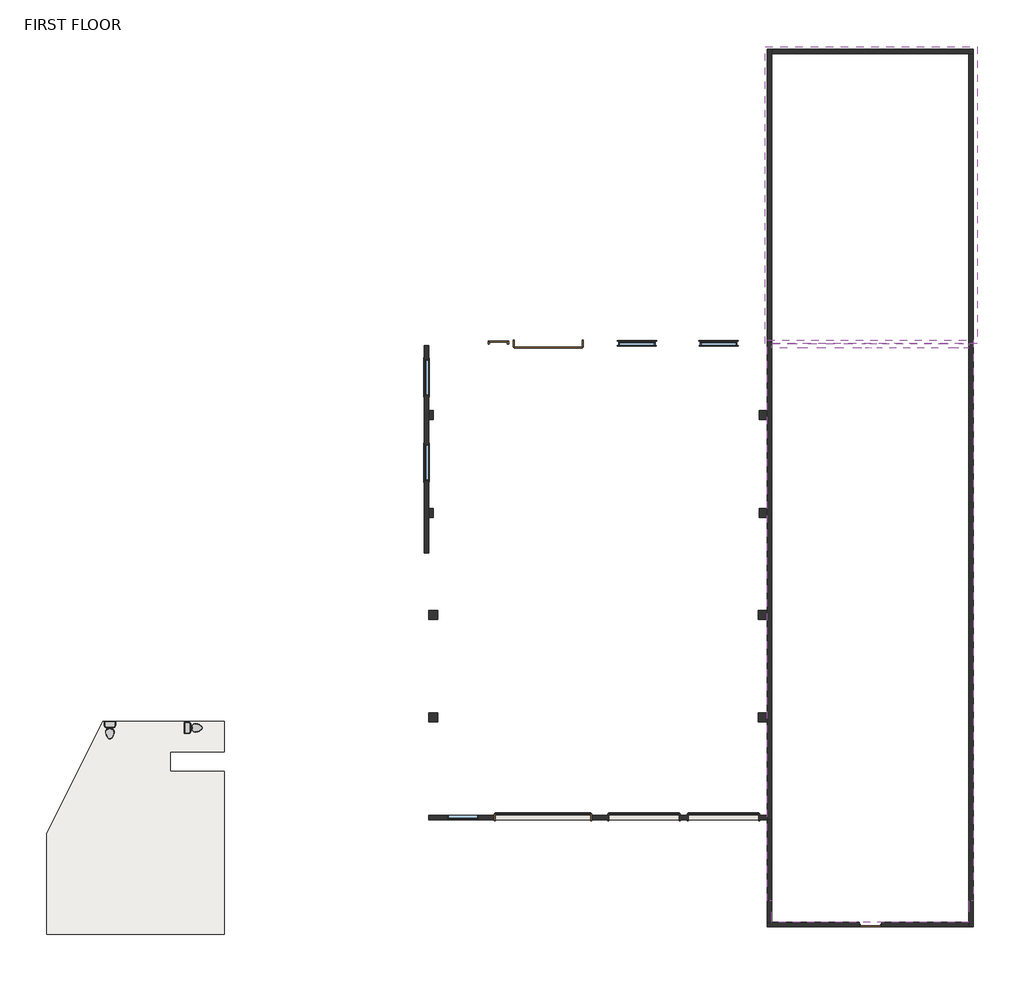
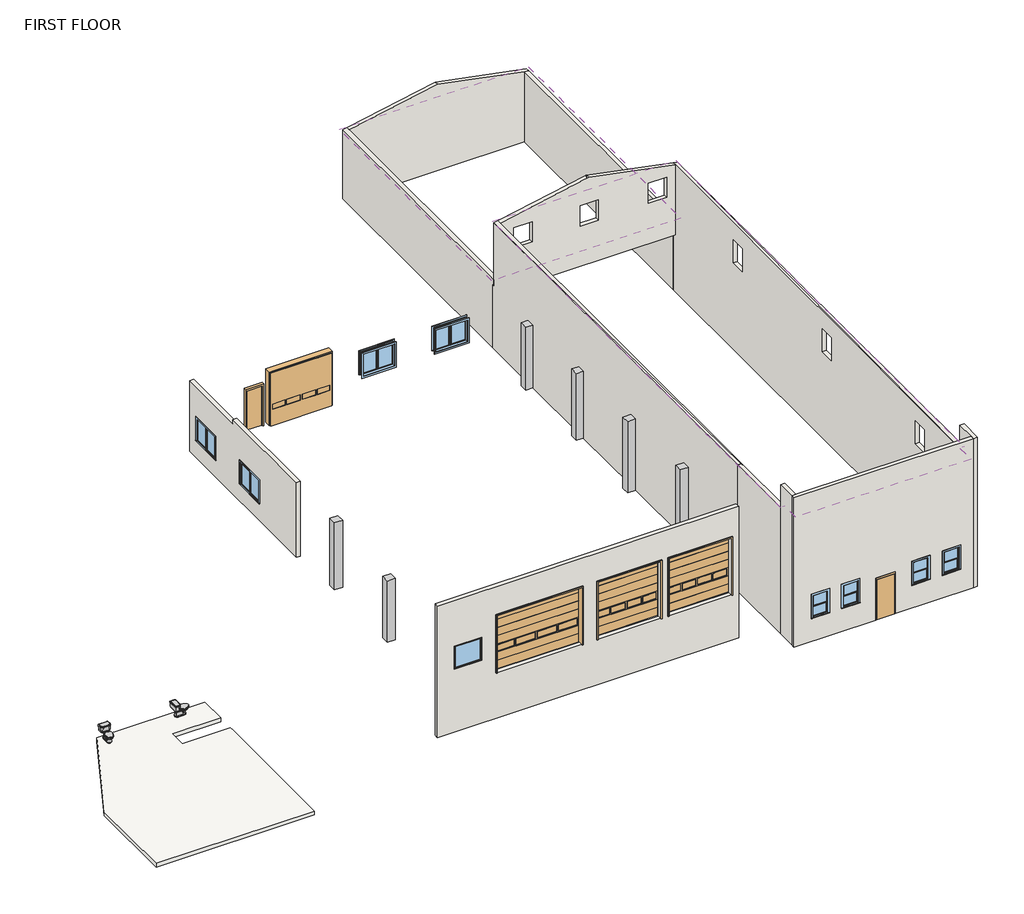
# One storey: 12 walls, 9 windows, 8 columns, 6 doors, 2 flow terminals, 2 roofs, 1 slab.
"""IFC4 building model written with IfcOpenShell, lengths in millimetres."""

from ifc_helpers import new_model, si_unit, frame, origin, place, context, project, spatial, polyline, outline, extrude, faceted_brep, transform, mapped, element, save
from components import door_684b8264, door_14x10_2fe4b0a0, door_2_8_x_7_0_b9f3dcf3, door_3_0_x_7_0_07df3c89, door_0ad13b3f, toilet_domestic_3d_toilet_domestic_3d_f7549cf7, toilet_domestic_3d_toilet_domestic_3d_183bbd19, window_e9b29f34, window_3d187e63, window_6106e9d8

model = new_model("IFC4")

# Units and contexts
model_context = context("Model", 3, world=origin())
ifc_project = project(units=[si_unit("LENGTHUNIT", "METRE", prefix="MILLI")], contexts=[model_context])

# Site, building, storey
site = spatial("IfcSite", under=ifc_project)
building = spatial("IfcBuilding", under=site)
storey = spatial("IfcBuildingStorey", under=building, Name="FIRST FLOOR", Elevation=3657.6)

# Columns
placement = place(None, origin())
element("IfcColumn", 1, ObjectType="Rectangular Column : 16\" x 16\"", at=placement, inside=storey, context=model_context, shape_type="SweptSolid", body=[
    extrude(outline(polyline([(26819.9108625, 17904.5402655), (27226.3108625, 17904.5402655), (27226.3108625, 17498.1402655), (26819.9108625, 17498.1402655), (26819.9108625, 17904.5402655)])), frame((0.0, 0.0, 3657.6), z_axis=(0.0, 0.0, 1.0), x_axis=(1.0, 0.0, 0.0)), (0.0, 0.0, 1.0), 3251.2),
])
element("IfcColumn", 2, ObjectType="Rectangular Column : 16\" x 16\"", at=placement, inside=storey, context=model_context, shape_type="SweptSolid", body=[
    extrude(outline(polyline([(26819.9108625, 22501.9402655), (27226.3108625, 22501.9402655), (27226.3108625, 22095.5402655), (26819.9108625, 22095.5402655), (26819.9108625, 22501.9402655)])), frame((0.0, 0.0, 3657.6), z_axis=(0.0, 0.0, 1.0), x_axis=(1.0, 0.0, 0.0)), (0.0, 0.0, 1.0), 3556.0),
])
element("IfcColumn", 3, ObjectType="Rectangular Column : 16\" x 16\"", at=placement, inside=storey, context=model_context, shape_type="SweptSolid", body=[
    extrude(outline(polyline([(41958.3108625, 17904.5402655), (41958.3108625, 17498.1402655), (41551.9108625, 17498.1402655), (41551.9108625, 17904.5402655), (41958.3108625, 17904.5402655)])), frame((0.0, 0.0, 3657.6), z_axis=(0.0, 0.0, 1.0), x_axis=(1.0, 0.0, 0.0)), (0.0, 0.0, 1.0), 3995.2633615),
])
element("IfcColumn", 4, ObjectType="Rectangular Column : 16\" x 16\"", at=placement, inside=storey, context=model_context, shape_type="SweptSolid", body=[
    extrude(outline(polyline([(41958.3108625, 22501.9402655), (41958.3108625, 22095.5402655), (41551.9108625, 22095.5402655), (41551.9108625, 22501.9402655), (41958.3108625, 22501.9402655)])), frame((0.0, 0.0, 3657.6), z_axis=(0.0, 0.0, 1.0), x_axis=(1.0, 0.0, 0.0)), (0.0, 0.0, 1.0), 3772.8981862),
])
element("IfcColumn", 5, ObjectType="Rectangular Column : 16\" x 16\"", at=placement, inside=storey, context=model_context, shape_type="SweptSolid", body=[
    extrude(outline(polyline([(41602.7108625, 26642.1402655), (41602.7108625, 27048.5402655), (41958.3108625, 27048.5402655), (41958.3108625, 26642.1402655), (41602.7108625, 26642.1402655)])), frame((0.0, 0.0, 3657.6), z_axis=(0.0, 0.0, 1.0), x_axis=(1.0, 0.0, 0.0)), (0.0, 0.0, 1.0), 3552.9900846),
])
element("IfcColumn", 6, ObjectType="Rectangular Column : 16\" x 16\"", at=placement, inside=storey, context=model_context, shape_type="SweptSolid", body=[
    extrude(outline(polyline([(41602.7108625, 31036.3402655), (41602.7108625, 31442.7402655), (41958.3108625, 31442.7402655), (41958.3108625, 31036.3402655), (41602.7108625, 31036.3402655)])), frame((0.0, 0.0, 3657.6), z_axis=(0.0, 0.0, 1.0), x_axis=(1.0, 0.0, 0.0)), (0.0, 0.0, 1.0), 3340.4532044),
])
element("IfcColumn", 7, ObjectType="Rectangular Column : 8\" x 16\"", at=placement, inside=storey, context=model_context, shape_type="SweptSolid", body=[
    extrude(outline(polyline([(26819.9108625, 27048.5402655), (27023.1108625, 27048.5402655), (27023.1108625, 26642.1402655), (26819.9108625, 26642.1402655), (26819.9108625, 27048.5402655)])), frame((0.0, 0.0, 3657.6), z_axis=(0.0, 0.0, 1.0), x_axis=(1.0, 0.0, 0.0)), (0.0, 0.0, 1.0), 3556.0),
])
element("IfcColumn", 8, ObjectType="Rectangular Column : 8\" x 16\"", at=placement, inside=storey, context=model_context, shape_type="SweptSolid", body=[
    extrude(outline(polyline([(26819.9108625, 31442.7402655), (27023.1108625, 31442.7402655), (27023.1108625, 31036.3402655), (26819.9108625, 31036.3402655), (26819.9108625, 31442.7402655)])), frame((0.0, 0.0, 3657.6), z_axis=(0.0, 0.0, 1.0), x_axis=(1.0, 0.0, 0.0)), (0.0, 0.0, 1.0), 3340.4532044),
])

# Doors
door_shape = door_684b8264(model_context)
element("IfcDoor", 9, ObjectType="OH-doorwithglass_BA : 10'-4\" x 10'", at=placement, inside=storey, context=model_context, shape_type="MappedRepresentation", body=[
    mapped(door_shape, transform((36359.4357409, 13078.5402655, 3657.6), x_axis=(-1.0, 0.0, 0.0), y_axis=(0.0, -1.0, 0.0), z_axis=(0.0, 0.0, 1.0))),
])
element("IfcDoor", 10, ObjectType="OH-doorwithglass_BA : 10'-4\" x 10'", at=placement, inside=storey, context=model_context, shape_type="MappedRepresentation", body=[
    mapped(door_shape, transform((39915.4357409, 13078.5402655, 3657.6), x_axis=(-1.0, 0.0, 0.0), y_axis=(0.0, -1.0, 0.0), z_axis=(0.0, 0.0, 1.0))),
])
door_14x10_shape = door_14x10_2fe4b0a0(model_context)
element("IfcDoor", 11, ObjectType="OH-doorwithglass_BA : 14x10", at=placement, inside=storey, context=model_context, shape_type="MappedRepresentation", body=[
    mapped(door_14x10_shape, transform((32012.3859842, 13078.5402655, 3657.6), x_axis=(1.0, 0.0, 0.0), y_axis=(0.0, 1.0, 0.0), z_axis=(0.0, 0.0, 1.0))),
])
door_2_8_x_7_0_shape = door_2_8_x_7_0_b9f3dcf3(model_context)
element("IfcDoor", 12, ObjectType="Butt Frame_S_BA : 2-8 x 7-0", at=placement, inside=storey, context=model_context, shape_type="MappedRepresentation", body=[
    mapped(door_2_8_x_7_0_shape, transform((30410.8358625, 34439.9402655, 3657.6), x_axis=(-1.0, 0.0, 0.0), y_axis=(0.0, -1.0, 0.0), z_axis=(0.0, 0.0, 1.0))),
])
door_3_0_x_7_0_shape = door_3_0_x_7_0_07df3c89(model_context)
element("IfcDoor", 13, ObjectType="Butt Frame_S_BA : 3-0 x 7-0", at=placement, inside=storey, context=model_context, shape_type="MappedRepresentation", body=[
    mapped(door_3_0_x_7_0_shape, transform((47051.0108625, 8430.3402655, 3657.6), x_axis=(-1.0, 0.0, 0.0), y_axis=(0.0, -1.0, 0.0), z_axis=(0.0, 0.0, 1.0))),
])
door_2_shape = door_0ad13b3f(model_context)
element("IfcDoor", 14, ObjectType="OH-doorwithglass_BA : 9' 2\" X 10", at=placement, inside=storey, context=model_context, shape_type="MappedRepresentation", body=[
    mapped(door_2_shape, transform((32250.5109842, 34592.3402655, 3657.6), x_axis=(1.0, 0.0, 0.0), y_axis=(0.0, 1.0, 0.0), z_axis=(0.0, 0.0, 1.0))),
])

# Flow terminals
toilet_domestic_3d_toilet_domestic_3d_shape = toilet_domestic_3d_toilet_domestic_3d_f7549cf7(model_context)
toilet_domestic_3d_toilet_domestic_3d_2_shape = toilet_domestic_3d_toilet_domestic_3d_183bbd19(model_context)
element("IfcFlowTerminal", 15, ObjectType="Toilet-Domestic-3D : Toilet-Domestic-3D", at=placement, inside=storey, context=model_context, shape_type="MappedRepresentation", body=[
    mapped(toilet_domestic_3d_toilet_domestic_3d_shape, transform((12559.9769936, 17044.9521641, 3657.6), x_axis=(1.0, 0.0, 0.0), y_axis=(0.0, 1.0, 0.0), z_axis=(0.0, 0.0, 1.0))),
    mapped(toilet_domestic_3d_toilet_domestic_3d_2_shape, transform((12559.9769936, 17044.9521641, 3657.6), x_axis=(1.0, 0.0, 0.0), y_axis=(0.0, 1.0, 0.0), z_axis=(0.0, 0.0, 1.0))),
])
element("IfcFlowTerminal", 16, ObjectType="Toilet-Domestic-3D : Toilet-Domestic-3D", at=placement, inside=storey, context=model_context, shape_type="MappedRepresentation", body=[
    mapped(toilet_domestic_3d_toilet_domestic_3d_shape, transform((16382.0730209, 17238.992362, 3657.6), x_axis=(0.0, 1.0, 0.0), y_axis=(-1.0, 0.0, 0.0), z_axis=(0.0, 0.0, 1.0))),
    mapped(toilet_domestic_3d_toilet_domestic_3d_2_shape, transform((16382.0730209, 17238.992362, 3657.6), x_axis=(0.0, 1.0, 0.0), y_axis=(-1.0, 0.0, 0.0), z_axis=(0.0, 0.0, 1.0))),
])

# Roofs
element("IfcRoof", 17, ObjectType="6\" Rigid", at=placement, inside=storey, context=model_context, shape_type="SweptSolid", body=[
    extrude(outline(polyline([(7467.6, 41856.7108625), (7315.2, 41856.7108625), (8229.6, 46606.5108625), (7315.2, 51356.3108625), (7467.6, 51356.3108625), (8382.0, 46606.5108625), (7467.6, 41856.7108625)])), frame((0.0, 34439.9402655, 0.0), z_axis=(0.0, 1.0, 0.0), x_axis=(0.0, 0.0, 1.0)), (0.0, 0.0, 1.0), 13284.2),
])
element("IfcRoof", 18, ObjectType="6\" Rigid", at=placement, inside=storey, context=model_context, shape_type="Brep", body=[
    faceted_brep([(51178.5108625, 34592.3402655, 10515.6), (51178.5108625, 34592.3402655, 10363.2), (46568.4108625, 34592.3402655, 11277.6), (41958.3108625, 34592.3402655, 10363.2), (41958.3108625, 34592.3402655, 10515.6), (46568.4108625, 34592.3402655, 11430.0), (51178.5108625, 9497.1402655, 10515.6), (51178.5108625, 9497.1402655, 10363.2), (42161.5108625, 8531.9402655, 10515.6), (42161.5108625, 8531.9402655, 10363.2), (46568.4108625, 8531.9402655, 11277.6), (50975.3108625, 8531.9402655, 10363.2), (50975.3108625, 8531.9402655, 10515.6), (46568.4108625, 8531.9402655, 11430.0), (41958.3108625, 9497.1402655, 10363.2), (41958.3108625, 9497.1402655, 10515.6), (42161.5108625, 9497.1402655, 10363.2), (42161.5108625, 9497.1402655, 10515.6), (50975.3108625, 9497.1402655, 10515.6), (50975.3108625, 9497.1402655, 10363.2)], [[[0, 1, 2, 3, 4, 5]], [[6, 7, 1, 0]], [[8, 9, 10, 11, 12, 13]], [[4, 3, 14, 15]], [[15, 14, 16, 17]], [[17, 16, 9, 8]], [[18, 19, 7, 6]], [[12, 11, 19, 18]], [[4, 15, 17]], [[3, 16, 14]], [[12, 18, 5, 13]], [[11, 10, 2, 19]], [[17, 8, 13, 5]], [[4, 17, 5]], [[18, 0, 5]], [[18, 6, 0]], [[16, 2, 10, 9]], [[3, 2, 16]], [[19, 2, 1]], [[19, 1, 7]]]),
])

# Slab
element("IfcSlab", 19, ObjectType="8\" WOOD FLOOR", at=placement, inside=storey, context=model_context, shape_type="SweptSolid", body=[
    extrude(outline(polyline([(12249.2288286, 17539.6481915), (17675.9108625, 17539.6481915), (17675.9108625, 16168.0481915), (15252.3769936, 16168.0481915), (15252.3769936, 15304.4481915), (17675.9108625, 15304.4481915), (17675.9108625, 15101.2481915), (17675.9108625, 7998.5402655), (9725.7108625, 7998.5402655), (9725.7108625, 12498.4063211), (12249.2288286, 17539.6481915)])), frame((0.0, 0.0, 3454.4), z_axis=(0.0, 0.0, 1.0), x_axis=(1.0, 0.0, 0.0)), (0.0, 0.0, 1.0), 203.2),
])

# Walls
element("IfcWall", 20, ObjectType="Generic - 8\"", at=placement, inside=storey, context=model_context, shape_type="Brep", body=[
    faceted_brep([(26819.9108625, 13129.3402655, 1244.6), (41958.3108625, 13129.3402655, 1244.6), (41958.3108625, 13129.3402655, 3657.6), (41958.3108625, 13129.3402655, 8229.6), (26819.9108625, 13129.3402655, 8229.6), (26819.9108625, 13129.3402655, 3454.4), (29791.7108625, 13129.3402655, 3657.6), (29791.7108625, 13129.3402655, 6705.6), (34058.9108625, 13129.3402655, 6705.6), (34058.9108625, 13129.3402655, 3657.6), (38021.3108625, 13129.3402655, 6705.6), (38021.3108625, 13129.3402655, 3657.6), (34871.7108625, 13129.3402655, 3657.6), (34871.7108625, 13129.3402655, 6705.6), (41577.3108625, 13129.3402655, 6705.6), (41577.3108625, 13129.3402655, 3657.6), (38427.7108625, 13129.3402655, 3657.6), (38427.7108625, 13129.3402655, 6705.6), (27664.4608625, 13129.3402655, 4572.0), (27664.4608625, 13129.3402655, 5791.2), (29036.0608625, 13129.3402655, 5791.2), (29036.0608625, 13129.3402655, 4572.0), (41958.3108625, 13332.5402655, 1244.6), (26819.9108625, 13332.5402655, 1244.6), (26819.9108625, 13332.5402655, 8229.6), (41958.3108625, 13332.5402655, 8229.6), (29791.7108625, 13332.5402655, 6705.6), (29791.7108625, 13332.5402655, 3657.6), (34058.9108625, 13332.5402655, 3657.6), (34058.9108625, 13332.5402655, 6705.6), (38021.3108625, 13332.5402655, 3657.6), (38021.3108625, 13332.5402655, 6705.6), (34871.7108625, 13332.5402655, 6705.6), (34871.7108625, 13332.5402655, 3657.6), (41577.3108625, 13332.5402655, 3657.6), (41577.3108625, 13332.5402655, 6705.6), (38427.7108625, 13332.5402655, 6705.6), (38427.7108625, 13332.5402655, 3657.6), (27664.4608625, 13332.5402655, 5791.2), (27664.4608625, 13332.5402655, 4572.0), (29036.0608625, 13332.5402655, 4572.0), (29036.0608625, 13332.5402655, 5791.2), (41958.3108625, 13230.9402655, 8229.6)], [[[0, 1, 2, 3, 4, 5], [6, 7, 8, 9], [10, 11, 12, 13], [14, 15, 16, 17], [18, 19, 20, 21]], [[22, 23, 24, 25], [26, 27, 28, 29], [30, 31, 32, 33], [34, 35, 36, 37], [38, 39, 40, 41]], [[1, 0, 23, 22]], [[4, 3, 42, 25, 24]], [[26, 7, 6, 27]], [[27, 6, 9, 28]], [[28, 9, 8, 29]], [[30, 11, 10, 31]], [[11, 30, 33, 12]], [[12, 33, 32, 13]], [[31, 10, 13, 32]], [[34, 15, 14, 35]], [[15, 34, 37, 16]], [[16, 37, 36, 17]], [[35, 14, 17, 36]], [[7, 26, 29, 8]], [[3, 2, 1, 22, 25, 42]], [[38, 19, 18, 39]], [[39, 18, 21, 40]], [[40, 21, 20, 41]], [[19, 38, 41, 20]], [[23, 0, 5, 4, 24]]]),
])
element("IfcWall", 21, ObjectType="Generic - 8\"", at=placement, inside=storey, context=model_context, shape_type="Brep", body=[
    faceted_brep([(42161.5108625, 13129.3402655, 3657.6), (42161.5108625, 34541.5402655, 3657.6), (42161.5108625, 34541.5402655, 7010.4), (42161.5108625, 34439.9402655, 7010.4), (42161.5108625, 34439.9402655, 10403.2593703), (42161.5108625, 34236.7402655, 10402.933021), (42161.5108625, 13129.3402655, 10369.0334928), (42161.5108625, 13129.3402655, 10363.2), (42161.5108625, 13230.9402655, 10363.2), (42161.5108625, 13230.9402655, 8229.6), (42161.5108625, 13129.3402655, 8229.6), (41958.3108625, 34541.5402655, 3657.6), (41958.3108625, 31442.7402655, 3657.6), (41958.3108625, 31036.3402655, 3657.6), (41958.3108625, 27048.5402655, 3657.6), (41958.3108625, 26642.1402655, 3657.6), (41958.3108625, 22501.9402655, 3657.6), (41958.3108625, 22095.5402655, 3657.6), (41958.3108625, 17904.5402655, 3657.6), (41958.3108625, 17498.1402655, 3657.6), (41958.3108625, 13129.3402655, 3657.6), (41958.3108625, 13129.3402655, 8229.6), (41958.3108625, 13230.9402655, 8229.6), (41958.3108625, 13230.9402655, 10363.2), (41958.3108625, 34439.9402655, 10363.2), (41958.3108625, 34439.9402655, 7010.4), (41958.3108625, 34541.5402655, 7010.4), (42132.1003362, 13129.3402655, 10363.2), (41959.5448706, 34439.9402655, 10363.2), (42131.2776641, 13230.9402655, 10363.2)], [[[0, 1, 2, 3, 4, 5, 6, 7, 8, 9, 10]], [[11, 12, 13, 14, 15, 16, 17, 18, 19, 20, 21, 22, 23, 24, 25, 26]], [[1, 0, 20, 19, 18, 17, 16, 15, 14, 13, 12, 11]], [[20, 0, 10, 21]], [[6, 27, 7]], [[25, 24, 28, 4, 3]], [[1, 11, 26, 2]], [[29, 8, 7, 27]], [[22, 9, 8, 29, 23]], [[6, 5, 4, 28, 29, 27]], [[28, 24, 23, 29]], [[25, 3, 2, 26]], [[9, 22, 21, 10]]]),
])
element("IfcWall", 22, ObjectType="Generic - 8\"", at=placement, inside=storey, context=model_context, shape_type="Brep", body=[
    faceted_brep([(26616.7108625, 34338.3402655, 3657.6), (26616.7108625, 25054.6402655, 3657.6), (26616.7108625, 25054.6402655, 7416.8), (26616.7108625, 25054.6402655, 7620.0), (26616.7108625, 30579.1402655, 7620.0), (26616.7108625, 30579.1402655, 7416.8), (26616.7108625, 34338.3402655, 7416.8), (26616.7108625, 34338.3402655, 7010.4), (26616.7108625, 33728.7402655, 4572.0), (26616.7108625, 33728.7402655, 5791.2), (26616.7108625, 32103.1402655, 5791.2), (26616.7108625, 32103.1402655, 4572.0), (26616.7108625, 29918.7402655, 4572.0), (26616.7108625, 29918.7402655, 5791.2), (26616.7108625, 28293.1402655, 5791.2), (26616.7108625, 28293.1402655, 4572.0), (26819.9108625, 25054.6402655, 3657.6), (26819.9108625, 26642.1402655, 3657.6), (26819.9108625, 27048.5402655, 3657.6), (26819.9108625, 31036.3402655, 3657.6), (26819.9108625, 31442.7402655, 3657.6), (26819.9108625, 34338.3402655, 3657.6), (26819.9108625, 34338.3402655, 7416.8), (26819.9108625, 30579.1402655, 7416.8), (26819.9108625, 30579.1402655, 7620.0), (26819.9108625, 25054.6402655, 7620.0), (26819.9108625, 25054.6402655, 7416.8), (26819.9108625, 33728.7402655, 5791.2), (26819.9108625, 33728.7402655, 4572.0), (26819.9108625, 32103.1402655, 4572.0), (26819.9108625, 32103.1402655, 5791.2), (26819.9108625, 29918.7402655, 5791.2), (26819.9108625, 29918.7402655, 4572.0), (26819.9108625, 28293.1402655, 4572.0), (26819.9108625, 28293.1402655, 5791.2)], [[[0, 1, 2, 3, 4, 5, 6, 7], [8, 9, 10, 11], [12, 13, 14, 15]], [[16, 17, 18, 19, 20, 21, 22, 23, 24, 25, 26], [27, 28, 29, 30], [31, 32, 33, 34]], [[27, 9, 8, 28]], [[28, 8, 11, 29]], [[29, 11, 10, 30]], [[9, 27, 30, 10]], [[31, 13, 12, 32]], [[32, 12, 15, 33]], [[33, 15, 14, 34]], [[13, 31, 34, 14]], [[1, 0, 21, 20, 19, 18, 17, 16]], [[4, 3, 25, 24]], [[5, 4, 24, 23]], [[6, 5, 23, 22]], [[2, 1, 16, 26, 25, 3]], [[0, 7, 6, 22, 21]]]),
])
element("IfcWall", 23, ObjectType="Generic - 8\"", at=placement, inside=storey, context=model_context, shape_type="Brep", body=[
    faceted_brep([(42161.5108625, 34541.5402655, 7010.4), (42161.5108625, 34541.5402655, 3657.6), (42161.5108625, 47393.9402655, 3657.6), (42161.5108625, 47597.1402655, 3657.6), (42161.5108625, 47597.1402655, 7373.8780749), (42161.5108625, 47393.9402655, 7373.8780749), (42161.5108625, 34439.9402655, 7373.8780749), (42161.5108625, 34439.9402655, 7010.4), (41958.3108625, 34541.5402655, 3657.6), (41958.3108625, 34541.5402655, 7010.4), (41958.3108625, 34439.9402655, 7010.4), (41958.3108625, 34439.9402655, 7334.7593583), (41958.3108625, 47597.1402655, 7334.7593583), (41958.3108625, 47597.1402655, 3657.6)], [[[0, 1, 2, 3, 4, 5, 6, 7]], [[8, 9, 10, 11, 12, 13]], [[3, 2, 1, 8, 13]], [[4, 3, 13, 12]], [[0, 9, 8, 1]], [[7, 6, 11, 10]], [[6, 5, 4, 12, 11]], [[7, 10, 9, 0]]]),
])
element("IfcWall", 24, ObjectType="Generic - 8\"", at=placement, inside=storey, context=model_context, shape_type="Brep", body=[
    faceted_brep([(42161.5108625, 47393.9402655, 3657.6), (50975.3108625, 47393.9402655, 3657.6), (51178.5108625, 47393.9402655, 3657.6), (51178.5108625, 47393.9402655, 7349.428877), (50975.3108625, 47393.9402655, 7388.5475936), (46606.5108625, 47393.9402655, 8229.6), (42161.5108625, 47393.9402655, 7373.8780749), (42161.5108625, 47597.1402655, 3657.6), (42161.5108625, 47597.1402655, 7373.8780749), (46606.5108625, 47597.1402655, 8229.6), (51178.5108625, 47597.1402655, 7349.428877), (51178.5108625, 47597.1402655, 3657.6)], [[[0, 1, 2, 3, 4, 5, 6]], [[7, 8, 9, 10, 11]], [[2, 1, 0, 7, 11]], [[0, 6, 8, 7]], [[3, 2, 11, 10]], [[6, 5, 9, 8]], [[5, 4, 3, 10, 9]]]),
])
element("IfcWall", 25, ObjectType="Generic - 8\"", at=placement, inside=storey, context=model_context, shape_type="SweptSolid", body=[
    extrude(outline(polyline([(3657.6, 50975.3108625), (3657.6, 51178.5108625), (7349.428877, 51178.5108625), (7388.5475936, 50975.3108625), (3657.6, 50975.3108625)])), frame((0.0, 34439.9402655, 0.0), z_axis=(0.0, 1.0, 0.0), x_axis=(0.0, 0.0, 1.0)), (0.0, 0.0, 1.0), 12954.0),
])
element("IfcWall", 26, ObjectType="Generic - 8\"", at=placement, inside=storey, context=model_context, shape_type="Brep", body=[
    faceted_brep([(41958.3108625, 8531.9402655, 11582.4), (42161.5108625, 8531.9402655, 11582.4), (50975.3108625, 8531.9402655, 11582.4), (50975.3108625, 8531.9402655, 3657.6), (47076.4108625, 8531.9402655, 3657.6), (47076.4108625, 8531.9402655, 5892.8), (46060.4108625, 8531.9402655, 5892.8), (46060.4108625, 8531.9402655, 3657.6), (42161.5108625, 8531.9402655, 3657.6), (41958.3108625, 8531.9402655, 3657.6), (44406.8807844, 8531.9402655, 6096.0), (44406.8807844, 8531.9402655, 4876.8), (45199.3409406, 8531.9402655, 4876.8), (45199.3409406, 8531.9402655, 6096.0), (47937.4807844, 8531.9402655, 6096.0), (47937.4807844, 8531.9402655, 4876.8), (48729.9409406, 8531.9402655, 4876.8), (48729.9409406, 8531.9402655, 6096.0), (49461.4807844, 8531.9402655, 6096.0), (49461.4807844, 8531.9402655, 4876.8), (50253.9409406, 8531.9402655, 4876.8), (50253.9409406, 8531.9402655, 6096.0), (42882.8807844, 8531.9402655, 6096.0), (42882.8807844, 8531.9402655, 4876.8), (43675.3409406, 8531.9402655, 4876.8), (43675.3409406, 8531.9402655, 6096.0), (50975.3108625, 8328.7402655, 11582.4), (41958.3108625, 8328.7402655, 11582.4), (41958.3108625, 8328.7402655, 3657.6), (46060.4108625, 8328.7402655, 3657.6), (46060.4108625, 8328.7402655, 5892.8), (47076.4108625, 8328.7402655, 5892.8), (47076.4108625, 8328.7402655, 3657.6), (50975.3108625, 8328.7402655, 3657.6), (44406.8807844, 8328.7402655, 6096.0), (45199.3409406, 8328.7402655, 6096.0), (45199.3409406, 8328.7402655, 4876.8), (44406.8807844, 8328.7402655, 4876.8), (47937.4807844, 8328.7402655, 4876.8), (47937.4807844, 8328.7402655, 6096.0), (48729.9409406, 8328.7402655, 6096.0), (48729.9409406, 8328.7402655, 4876.8), (49461.4807844, 8328.7402655, 4876.8), (49461.4807844, 8328.7402655, 6096.0), (50253.9409406, 8328.7402655, 6096.0), (50253.9409406, 8328.7402655, 4876.8), (42882.8807844, 8328.7402655, 4876.8), (42882.8807844, 8328.7402655, 6096.0), (43675.3409406, 8328.7402655, 6096.0), (43675.3409406, 8328.7402655, 4876.8)], [[[0, 1, 2, 3, 4, 5, 6, 7, 8, 9], [10, 11, 12, 13], [14, 15, 16, 17], [18, 19, 20, 21], [22, 23, 24, 25]], [[26, 27, 28, 29, 30, 31, 32, 33], [34, 35, 36, 37], [38, 39, 40, 41], [42, 43, 44, 45], [46, 47, 48, 49]], [[3, 33, 32, 4]], [[28, 9, 8, 7, 29]], [[2, 1, 0, 27, 26]], [[3, 2, 26, 33]], [[0, 9, 28, 27]], [[11, 10, 34, 37]], [[12, 11, 37, 36]], [[13, 12, 36, 35]], [[10, 13, 35, 34]], [[15, 14, 39, 38]], [[16, 15, 38, 41]], [[17, 16, 41, 40]], [[14, 17, 40, 39]], [[19, 18, 43, 42]], [[20, 19, 42, 45]], [[21, 20, 45, 44]], [[18, 21, 44, 43]], [[6, 30, 29, 7]], [[30, 6, 5, 31]], [[31, 5, 4, 32]], [[22, 47, 46, 23]], [[23, 46, 49, 24]], [[24, 49, 48, 25]], [[47, 22, 25, 48]]]),
])
element("IfcWall", 27, ObjectType="Generic - 8\"", at=placement, inside=storey, context=model_context, shape_type="Brep", body=[
    faceted_brep([(42161.5108625, 8531.9402655, 3657.6), (42161.5108625, 9497.1402655, 3657.6), (42161.5108625, 9497.1402655, 10363.2), (42161.5108625, 9497.1402655, 11582.4), (42161.5108625, 8531.9402655, 11582.4), (41958.3108625, 8531.9402655, 3657.6), (41958.3108625, 8531.9402655, 11582.4), (41958.3108625, 9497.1402655, 11582.4), (41958.3108625, 9497.1402655, 10363.2), (41958.3108625, 9497.1402655, 3657.6)], [[[0, 1, 2, 3, 4]], [[5, 6, 7, 8, 9]], [[1, 0, 5, 9]], [[3, 2, 1, 9, 8, 7]], [[4, 3, 7, 6]], [[0, 4, 6, 5]]]),
])
element("IfcWall", 28, ObjectType="Generic - 8\"", at=placement, inside=storey, context=model_context, shape_type="Brep", body=[
    faceted_brep([(50975.3108625, 34439.9402655, 3657.6), (50975.3108625, 9497.1402655, 3657.6), (50975.3108625, 9497.1402655, 10363.2), (50975.3108625, 34236.7402655, 10402.933021), (50975.3108625, 34439.9402655, 10403.2593703), (50975.3108625, 34439.9402655, 7388.5475936), (50975.3108625, 34439.9402655, 6705.6), (50975.3108625, 12606.1101874, 9448.8), (50975.3108625, 12606.1101874, 8229.6), (50975.3108625, 13398.5703436, 8229.6), (50975.3108625, 13398.5703436, 9448.8), (50975.3108625, 20683.3101874, 9448.8), (50975.3108625, 20683.3101874, 8229.6), (50975.3108625, 21475.7703436, 8229.6), (50975.3108625, 21475.7703436, 9448.8), (50975.3108625, 28455.7101874, 9448.8), (50975.3108625, 28455.7101874, 8229.6), (50975.3108625, 29248.1703436, 8229.6), (50975.3108625, 29248.1703436, 9448.8), (51178.5108625, 34439.9402655, 3657.6), (51178.5108625, 34439.9402655, 7349.428877), (51178.5108625, 34439.9402655, 10363.2), (51178.5108625, 9497.1402655, 10363.2), (51178.5108625, 9497.1402655, 3657.6), (51178.5108625, 12606.1101874, 9448.8), (51178.5108625, 13398.5703436, 9448.8), (51178.5108625, 13398.5703436, 8229.6), (51178.5108625, 12606.1101874, 8229.6), (51178.5108625, 20683.3101874, 9448.8), (51178.5108625, 21475.7703436, 9448.8), (51178.5108625, 21475.7703436, 8229.6), (51178.5108625, 20683.3101874, 8229.6), (51178.5108625, 28455.7101874, 9448.8), (51178.5108625, 29248.1703436, 9448.8), (51178.5108625, 29248.1703436, 8229.6), (51178.5108625, 28455.7101874, 8229.6), (51177.2768544, 34439.9402655, 10363.2)], [[[0, 1, 2, 3, 4, 5, 6], [7, 8, 9, 10], [11, 12, 13, 14], [15, 16, 17, 18]], [[19, 20, 21, 22, 23], [24, 25, 26, 27], [28, 29, 30, 31], [32, 33, 34, 35]], [[1, 0, 19, 23]], [[2, 1, 23, 22]], [[0, 6, 5, 4, 36, 21, 20, 19]], [[4, 3, 2, 36]], [[2, 22, 21, 36]], [[8, 7, 24, 27]], [[9, 8, 27, 26]], [[10, 9, 26, 25]], [[7, 10, 25, 24]], [[12, 11, 28, 31]], [[13, 12, 31, 30]], [[14, 13, 30, 29]], [[11, 14, 29, 28]], [[16, 15, 32, 35]], [[17, 16, 35, 34]], [[18, 17, 34, 33]], [[15, 18, 33, 32]]]),
])
element("IfcWall", 29, ObjectType="Generic - 8\"", at=placement, inside=storey, context=model_context, shape_type="Brep", body=[
    faceted_brep([(42161.5108625, 34236.7402655, 6705.6), (50975.3108625, 34236.7402655, 6705.6), (50975.3108625, 34236.7402655, 10402.933021), (46630.8568139, 34236.7402655, 11264.642915), (46568.4108625, 34236.7402655, 11277.6), (46505.9649111, 34236.7402655, 11264.642915), (42161.5108625, 34236.7402655, 10402.933021), (49603.7108625, 34236.7402655, 9906.0), (50518.1108625, 34236.7402655, 9906.0), (50518.1108625, 34236.7402655, 8839.2), (49603.7108625, 34236.7402655, 8839.2), (46174.7108625, 34236.7402655, 9906.0), (47089.1108625, 34236.7402655, 9906.0), (47089.1108625, 34236.7402655, 8839.2), (46174.7108625, 34236.7402655, 8839.2), (42847.3108625, 34236.7402655, 9906.0), (43761.7108625, 34236.7402655, 9906.0), (43761.7108625, 34236.7402655, 8839.2), (42847.3108625, 34236.7402655, 8839.2), (42161.5108625, 34439.9402655, 6705.6), (42161.5108625, 34439.9402655, 7010.4), (42161.5108625, 34439.9402655, 10403.2593703), (46541.6483119, 34439.9402655, 11272.0469636), (46568.4108625, 34439.9402655, 11277.6), (46595.1734131, 34439.9402655, 11272.0469636), (50975.3108625, 34439.9402655, 10403.2593703), (50975.3108625, 34439.9402655, 6705.6), (49603.7108625, 34439.9402655, 9906.0), (49603.7108625, 34439.9402655, 8839.2), (50518.1108625, 34439.9402655, 8839.2), (50518.1108625, 34439.9402655, 9906.0), (46174.7108625, 34439.9402655, 9906.0), (46174.7108625, 34439.9402655, 8839.2), (47089.1108625, 34439.9402655, 8839.2), (47089.1108625, 34439.9402655, 9906.0), (42847.3108625, 34439.9402655, 9906.0), (42847.3108625, 34439.9402655, 8839.2), (43761.7108625, 34439.9402655, 8839.2), (43761.7108625, 34439.9402655, 9906.0)], [[[0, 1, 2, 3, 4, 5, 6], [7, 8, 9, 10], [11, 12, 13, 14], [15, 16, 17, 18]], [[19, 20, 21, 22, 23, 24, 25, 26], [27, 28, 29, 30], [31, 32, 33, 34], [35, 36, 37, 38]], [[1, 0, 19, 26]], [[0, 6, 21, 20, 19]], [[1, 26, 25, 2]], [[6, 5, 22, 21]], [[5, 4, 23, 22]], [[4, 3, 24, 23]], [[3, 2, 25, 24]], [[28, 27, 7, 10]], [[29, 28, 10, 9]], [[30, 29, 9, 8]], [[27, 30, 8, 7]], [[32, 31, 11, 14]], [[33, 32, 14, 13]], [[34, 33, 13, 12]], [[31, 34, 12, 11]], [[36, 35, 15, 18]], [[37, 36, 18, 17]], [[38, 37, 17, 16]], [[35, 38, 16, 15]]]),
])
element("IfcWall", 30, ObjectType="Generic - 8\"", at=placement, inside=storey, context=model_context, shape_type="Brep", body=[
    faceted_brep([(42161.5108625, 9497.1402655, 3657.6), (42161.5108625, 13129.3402655, 3657.6), (42161.5108625, 13129.3402655, 8229.6), (42161.5108625, 13230.9402655, 8229.6), (42161.5108625, 13230.9402655, 10363.2), (42161.5108625, 13129.3402655, 10363.2), (42161.5108625, 9497.1402655, 10363.2), (41958.3108625, 9497.1402655, 3657.6), (41958.3108625, 9497.1402655, 10363.2), (41958.3108625, 13230.9402655, 10363.2), (41958.3108625, 13230.9402655, 8229.6), (41958.3108625, 13129.3402655, 8229.6), (41958.3108625, 13129.3402655, 3657.6), (42131.2776641, 13230.9402655, 10363.2)], [[[0, 1, 2, 3, 4, 5, 6]], [[7, 8, 9, 10, 11, 12]], [[1, 0, 7, 12]], [[6, 5, 4, 13, 9, 8]], [[0, 6, 8, 7]], [[4, 3, 10, 9, 13]], [[2, 1, 12, 11]], [[10, 3, 2, 11]]]),
])
element("IfcWall", 31, ObjectType="Generic - 8\"", at=placement, inside=storey, context=model_context, shape_type="Brep", body=[
    faceted_brep([(50975.3108625, 9497.1402655, 3657.6), (50975.3108625, 8531.9402655, 3657.6), (50975.3108625, 8328.7402655, 3657.6), (50975.3108625, 8328.7402655, 11582.4), (50975.3108625, 8531.9402655, 11582.4), (50975.3108625, 9497.1402655, 11582.4), (50975.3108625, 9497.1402655, 10363.2), (51178.5108625, 9497.1402655, 3657.6), (51178.5108625, 9497.1402655, 10363.2), (51178.5108625, 9497.1402655, 11582.4), (51178.5108625, 8328.7402655, 11582.4), (51178.5108625, 8328.7402655, 3657.6)], [[[0, 1, 2, 3, 4, 5, 6]], [[7, 8, 9, 10, 11]], [[2, 1, 0, 7, 11]], [[5, 4, 3, 10, 9]], [[0, 6, 5, 9, 8, 7]], [[3, 2, 11, 10]]]),
])

# Windows
window_shape = window_e9b29f34(model_context)
element("IfcWindow", 32, ObjectType="Casement Dbl with Trim : 32\" x 5' 4\"", at=placement, inside=storey, context=model_context, shape_type="MappedRepresentation", body=[
    mapped(window_shape, transform((26737.3608625, 32915.9402655, 3657.6), x_axis=(0.0, 1.0, 0.0), y_axis=(-1.0, 0.0, 0.0), z_axis=(0.0, 0.0, 1.0))),
])
element("IfcWindow", 33, ObjectType="Casement Dbl with Trim : 32\" x 5' 4\"", at=placement, inside=storey, context=model_context, shape_type="MappedRepresentation", body=[
    mapped(window_shape, transform((26737.3608625, 29105.9402655, 3657.6), x_axis=(0.0, 1.0, 0.0), y_axis=(-1.0, 0.0, 0.0), z_axis=(0.0, 0.0, 1.0))),
])
element("IfcWindow", 34, ObjectType="Casement Dbl with Trim : 32\" x 5' 4\"", at=placement, inside=storey, context=model_context, shape_type="MappedRepresentation", body=[
    mapped(window_shape, transform((39783.4358625, 34420.8902655, 3657.6), x_axis=(1.0, 0.0, 0.0), y_axis=(0.0, 1.0, 0.0), z_axis=(0.0, 0.0, 1.0))),
])
element("IfcWindow", 35, ObjectType="Casement Dbl with Trim : 32\" x 5' 4\"", at=placement, inside=storey, context=model_context, shape_type="MappedRepresentation", body=[
    mapped(window_shape, transform((36125.8358625, 34420.8902655, 3657.6), x_axis=(1.0, 0.0, 0.0), y_axis=(0.0, 1.0, 0.0), z_axis=(0.0, 0.0, 1.0))),
])
window_2_shape = window_3d187e63(model_context)
element("IfcWindow", 36, ObjectType="Double Hung with Trim : 16\" x 24\"", at=placement, inside=storey, context=model_context, shape_type="MappedRepresentation", body=[
    mapped(window_2_shape, transform((43279.1108625, 8430.3402655, 3962.4), x_axis=(-1.0, 0.0, 0.0), y_axis=(0.0, -1.0, 0.0), z_axis=(0.0, 0.0, 1.0))),
])
element("IfcWindow", 37, ObjectType="Double Hung with Trim : 16\" x 24\"", at=placement, inside=storey, context=model_context, shape_type="MappedRepresentation", body=[
    mapped(window_2_shape, transform((44803.1108625, 8430.3402655, 3962.4), x_axis=(-1.0, 0.0, 0.0), y_axis=(0.0, -1.0, 0.0), z_axis=(0.0, 0.0, 1.0))),
])
element("IfcWindow", 38, ObjectType="Double Hung with Trim : 16\" x 24\"", at=placement, inside=storey, context=model_context, shape_type="MappedRepresentation", body=[
    mapped(window_2_shape, transform((48333.7108625, 8430.3402655, 3962.4), x_axis=(-1.0, 0.0, 0.0), y_axis=(0.0, -1.0, 0.0), z_axis=(0.0, 0.0, 1.0))),
])
element("IfcWindow", 39, ObjectType="Double Hung with Trim : 16\" x 24\"", at=placement, inside=storey, context=model_context, shape_type="MappedRepresentation", body=[
    mapped(window_2_shape, transform((49857.7108625, 8430.3402655, 3962.4), x_axis=(-1.0, 0.0, 0.0), y_axis=(0.0, -1.0, 0.0), z_axis=(0.0, 0.0, 1.0))),
])
window_3_shape = window_6106e9d8(model_context)
element("IfcWindow", 40, ObjectType="Fixed : 54\" x 48\"", at=placement, inside=storey, context=model_context, shape_type="MappedRepresentation", body=[
    mapped(window_3_shape, transform((28312.1608625, 13230.9402655, 3657.6), x_axis=(-1.0, 0.0, 0.0), y_axis=(0.0, -1.0, 0.0), z_axis=(0.0, 0.0, 1.0))),
])

save(model, "model.ifc")
